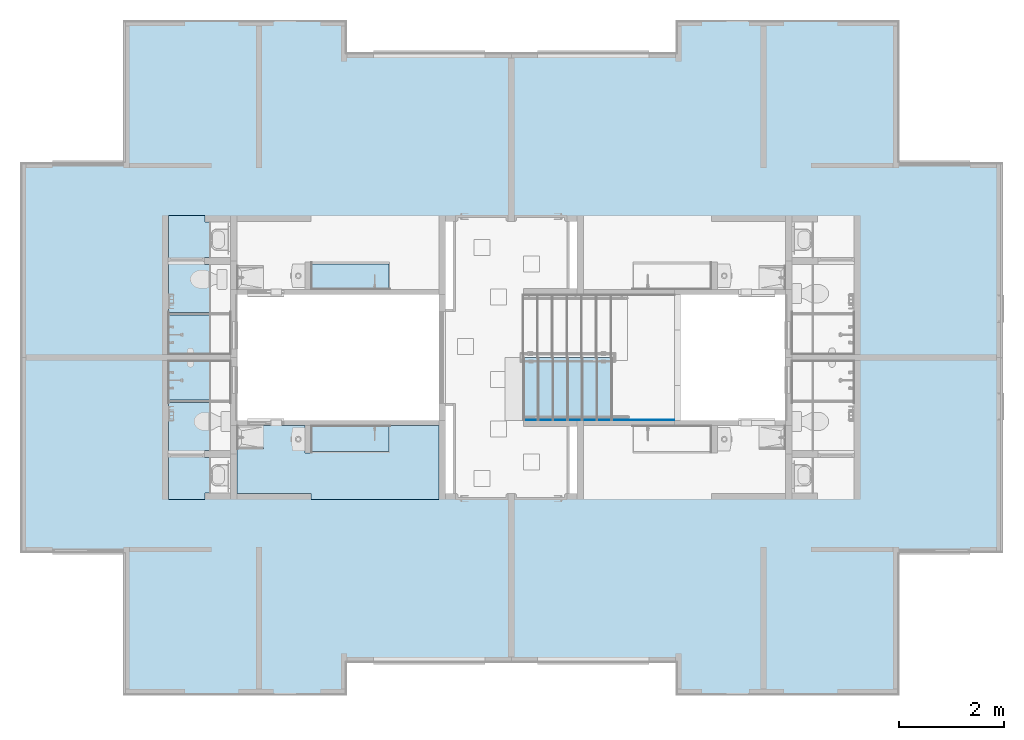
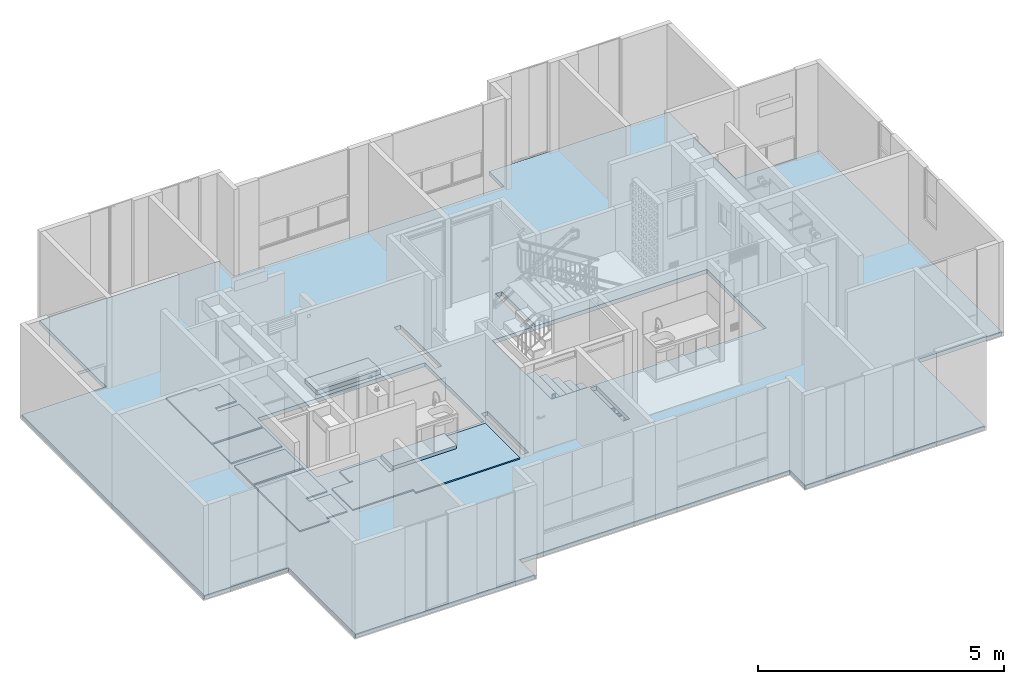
# One storey, part 1 of 48: 13 slabs.
"""IFC4 building model written with IfcOpenShell, lengths in metres."""

from ifc_helpers import new_model, entity, si_unit, converted_unit, derived_unit, direction, frame, origin, place, context, subcontext, project, spatial, indexed_curve, outline, extrude, material, constituent, constituent_set, type_object, element, save


model = new_model("IFC4")

# Units and contexts
model_context = context("Model", 3, precision=1e-05, world=origin(), true_north=direction((6.123031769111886e-17, 1.0)))
body_context = subcontext(model_context, "Body", "Model", "MODEL_VIEW")
ifc_project = project(units=[si_unit("LENGTHUNIT", "METRE"), si_unit("AREAUNIT", "SQUARE_METRE"), si_unit("VOLUMEUNIT", "CUBIC_METRE"), converted_unit("PLANEANGLEUNIT", "DEGREE", entity("IfcRatioMeasure", 0.017453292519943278), si_unit("PLANEANGLEUNIT", "RADIAN"), dimensions=[0, 0, 0, 0, 0, 0, 0]), si_unit("MASSUNIT", "GRAM", prefix="KILO"), derived_unit("MASSDENSITYUNIT", [(si_unit("MASSUNIT", "GRAM", prefix="KILO"), 1), (si_unit("LENGTHUNIT", "METRE"), -3)]), derived_unit("IONCONCENTRATIONUNIT", [(si_unit("MASSUNIT", "GRAM", prefix="KILO"), 1), (si_unit("LENGTHUNIT", "METRE"), -3)]), derived_unit("MOMENTOFINERTIAUNIT", [(si_unit("LENGTHUNIT", "METRE"), 4)]), si_unit("TIMEUNIT", "SECOND"), si_unit("FREQUENCYUNIT", "HERTZ"), si_unit("THERMODYNAMICTEMPERATUREUNIT", "DEGREE_CELSIUS"), derived_unit("THERMALTRANSMITTANCEUNIT", [(si_unit("MASSUNIT", "GRAM", prefix="KILO"), 1), (si_unit("THERMODYNAMICTEMPERATUREUNIT", "KELVIN"), -1), (si_unit("TIMEUNIT", "SECOND"), -3)]), derived_unit("THERMALCONDUCTANCEUNIT", [(si_unit("MASSUNIT", "GRAM", prefix="KILO"), 1), (si_unit("THERMODYNAMICTEMPERATUREUNIT", "KELVIN"), -1), (si_unit("TIMEUNIT", "SECOND"), -3), (si_unit("LENGTHUNIT", "METRE"), 1)]), derived_unit("VOLUMETRICFLOWRATEUNIT", [(si_unit("LENGTHUNIT", "METRE"), 3), (si_unit("TIMEUNIT", "SECOND"), -1)]), derived_unit("MASSFLOWRATEUNIT", [(si_unit("MASSUNIT", "GRAM", prefix="KILO"), 1), (si_unit("TIMEUNIT", "SECOND"), -1)]), derived_unit("ROTATIONALFREQUENCYUNIT", [(si_unit("TIMEUNIT", "SECOND"), -1)]), si_unit("ELECTRICCURRENTUNIT", "AMPERE"), si_unit("ELECTRICVOLTAGEUNIT", "VOLT"), si_unit("POWERUNIT", "WATT"), si_unit("FORCEUNIT", "NEWTON", prefix="KILO"), si_unit("ILLUMINANCEUNIT", "LUX"), si_unit("LUMINOUSFLUXUNIT", "LUMEN"), si_unit("LUMINOUSINTENSITYUNIT", "CANDELA"), derived_unit("USERDEFINED", [(si_unit("MASSUNIT", "GRAM", prefix="KILO"), -1), (si_unit("LENGTHUNIT", "METRE"), -2), (si_unit("TIMEUNIT", "SECOND"), 3), (si_unit("LUMINOUSFLUXUNIT", "LUMEN"), 1)]), derived_unit("USERDEFINED", [(si_unit("MASSUNIT", "GRAM", prefix="KILO"), 1), (si_unit("TIMEUNIT", "SECOND"), -3), (si_unit("LENGTHUNIT", "METRE"), 3), (si_unit("ELECTRICCURRENTUNIT", "AMPERE"), -2)]), derived_unit("SOUNDPOWERUNIT", [(si_unit("MASSUNIT", "GRAM", prefix="KILO"), 1), (si_unit("TIMEUNIT", "SECOND"), -3), (si_unit("LENGTHUNIT", "METRE"), 2)]), derived_unit("SOUNDPRESSUREUNIT", [(si_unit("MASSUNIT", "GRAM", prefix="KILO"), 1), (si_unit("LENGTHUNIT", "METRE"), -1), (si_unit("TIMEUNIT", "SECOND"), -2)]), derived_unit("LINEARVELOCITYUNIT", [(si_unit("LENGTHUNIT", "METRE"), 1), (si_unit("TIMEUNIT", "SECOND"), -1)]), si_unit("PRESSUREUNIT", "PASCAL"), derived_unit("USERDEFINED", [(si_unit("MASSUNIT", "GRAM", prefix="KILO"), 1), (si_unit("LENGTHUNIT", "METRE"), -2), (si_unit("TIMEUNIT", "SECOND"), -2)]), derived_unit("LINEARFORCEUNIT", [(si_unit("MASSUNIT", "GRAM", prefix="KILO"), 1), (si_unit("TIMEUNIT", "SECOND"), -2)]), derived_unit("PLANARFORCEUNIT", [(si_unit("MASSUNIT", "GRAM", prefix="KILO"), 1), (si_unit("LENGTHUNIT", "METRE"), -1), (si_unit("TIMEUNIT", "SECOND"), -2)]), derived_unit("SPECIFICHEATCAPACITYUNIT", [(si_unit("THERMODYNAMICTEMPERATUREUNIT", "KELVIN"), -1), (si_unit("LENGTHUNIT", "METRE"), 2), (si_unit("TIMEUNIT", "SECOND"), -2)]), derived_unit("HEATINGVALUEUNIT", [(si_unit("LENGTHUNIT", "METRE"), 2), (si_unit("TIMEUNIT", "SECOND"), -2)]), derived_unit("VAPORPERMEABILITYUNIT", [(si_unit("LENGTHUNIT", "METRE"), -1), (si_unit("TIMEUNIT", "SECOND"), 1)]), derived_unit("DYNAMICVISCOSITYUNIT", [(si_unit("MASSUNIT", "GRAM", prefix="KILO"), 1), (si_unit("TIMEUNIT", "SECOND"), -1), (si_unit("LENGTHUNIT", "METRE"), -1)]), derived_unit("THERMALEXPANSIONCOEFFICIENTUNIT", [(si_unit("THERMODYNAMICTEMPERATUREUNIT", "KELVIN"), -1)]), derived_unit("MODULUSOFELASTICITYUNIT", [(si_unit("MASSUNIT", "GRAM", prefix="KILO"), 1), (si_unit("LENGTHUNIT", "METRE"), -1), (si_unit("TIMEUNIT", "SECOND"), -2)]), derived_unit("ISOTHERMALMOISTURECAPACITYUNIT", [(si_unit("LENGTHUNIT", "METRE"), 3), (si_unit("MASSUNIT", "GRAM", prefix="KILO"), -1)]), derived_unit("MOISTUREDIFFUSIVITYUNIT", [(si_unit("TIMEUNIT", "SECOND"), -1), (si_unit("LENGTHUNIT", "METRE"), 2)])], contexts=[model_context])

# Site, building, storey
site_placement = place(None, origin())
site = spatial("IfcSite", under=ifc_project, at=site_placement, Name="Default", CompositionType="ELEMENT")
building_placement = place(site_placement, origin())
building = spatial("IfcBuilding", under=site, at=building_placement, CompositionType="ELEMENT")
storey_placement = place(building_placement, frame((0.0, 0.0, 4.700000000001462)))
storey = spatial("IfcBuildingStorey", under=building, at=storey_placement, Name="Nivel 3", CompositionType="ELEMENT", Elevation=4.700000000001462)

# Slabs
ifc_material_1 = material(Name="Ceramica 0.45m x 0.45m gris", Category="Materials")
ifc_constituent_1 = constituent(ifc_material_1, Name="Ceramica 0.45m x 0.45m gris", Category="Materials")
ifc_material_2 = material(Name="Mortero de pega", Category="Materials")
ifc_constituent_2 = constituent(ifc_material_2, Name="Mortero de pega", Category="Materials")
ifc_constituent_set_1 = constituent_set(constituents=[ifc_constituent_1, ifc_constituent_2], Name="Floor:C2030.20 - 0.45 x 0.45 - Enchape cerámico - Mortero de Pega + Cerámica gris")
slab_type_1 = type_object("IfcSlabType", Name="Floor:C2030.20 - 0.45 x 0.45 - Enchape cerámico - Mortero de Pega + Cerámica gris", PredefinedType="FLOOR", material=ifc_constituent_set_1)
slab_1_placement = place(storey_placement, origin())
element("IfcSlab", 1, at=slab_1_placement, inside=storey, type_object=slab_type_1, material=ifc_constituent_set_1, Name="Floor:C2030.20 - 0.45 x 0.45 - Enchape cerámico - Mortero de Pega + Cerámica gris", ObjectType="Floor:C2030.20 - 0.45 x 0.45 - Enchape cerámico - Mortero de Pega + Cerámica gris", PredefinedType="FLOOR", context=body_context, shape_type="SweptSolid", body=[
    extrude(outline(indexed_curve([(-0.592499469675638, -0.3749999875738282), (0.5924994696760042, -0.3749999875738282), (0.5924994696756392, 0.3749999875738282), (-0.5924994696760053, 0.3749999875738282), (-0.592499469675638, -0.3749999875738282)], self_intersect=False)), frame((3.3700005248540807, -5.990000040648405, 0.019999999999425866), z_axis=(0.0, 0.0, 1.0), x_axis=(-1.0, 0.0, 0.0)), (0.0, 0.0, 1.0), 0.009999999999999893),
    extrude(outline(indexed_curve([(-0.1950000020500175, -0.06099936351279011), (-0.19500000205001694, 0.4339995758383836), (-1.109999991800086, 0.43399957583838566), (-1.109999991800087, -0.7509993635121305), (0.7449999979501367, -0.7509993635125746), (0.7449999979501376, -0.05600042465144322), (0.6199999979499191, -0.05600042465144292), (0.619999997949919, 0.4339995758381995), (-0.060000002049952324, 0.4339995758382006), (-0.060000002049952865, -0.06099936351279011), (-0.1950000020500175, -0.06099936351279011)], self_intersect=False)), frame((3.5285004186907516, -4.455000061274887, 0.019999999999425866), z_axis=(0.0, 0.0, -1.0), x_axis=(0.0, 1.0, 0.0)), (0.0, 0.0, -1.0), 0.009999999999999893),
    extrude(outline(indexed_curve([(-0.7509993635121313, -1.1099999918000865), (0.4339995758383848, -1.1099999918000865), (0.4339995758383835, -0.19500000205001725), (-0.06099936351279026, -0.1950000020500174), (-0.06099936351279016, -0.06000000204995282), (0.4339995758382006, -0.06000000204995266), (0.4339995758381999, 0.6199999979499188), (-0.05600042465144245, 0.6199999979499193), (-0.05600042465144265, 0.7449999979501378), (-0.750999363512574, 0.7449999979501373), (-0.7509993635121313, -1.1099999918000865)], self_intersect=False)), frame((3.5285004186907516, -4.455000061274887, 0.0)), (0.0, 0.0, 1.0), 0.020000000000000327),
    extrude(outline(indexed_curve([(-0.37499998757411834, -0.5924994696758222), (0.37499998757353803, -0.5924994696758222), (0.37499998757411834, 0.59249946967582), (-0.37499998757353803, 0.5924994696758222), (-0.37499998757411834, -0.5924994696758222)], self_intersect=False)), frame((3.37000052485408, -5.990000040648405, 0.0), z_axis=(0.0, 0.0, 1.0), x_axis=(0.0, 1.0, 0.0)), (0.0, 0.0, 1.0), 0.020000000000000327),
])
slab_2_placement = place(storey_placement, origin())
element("IfcSlab", 2, at=slab_2_placement, inside=storey, type_object=slab_type_1, material=ifc_constituent_set_1, Name="Floor:C2030.20 - 0.45 x 0.45 - Enchape cerámico - Mortero de Pega + Cerámica gris", ObjectType="Floor:C2030.20 - 0.45 x 0.45 - Enchape cerámico - Mortero de Pega + Cerámica gris", PredefinedType="FLOOR", context=body_context, shape_type="SweptSolid", body=[
    extrude(outline(indexed_curve([(-0.5924994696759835, -0.3749999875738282), (0.5924994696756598, -0.3749999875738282), (0.5924994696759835, 0.3749999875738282), (-0.5924994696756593, 0.3749999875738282), (-0.5924994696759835, -0.3749999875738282)], self_intersect=False)), frame((3.3700005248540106, -6.860000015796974, 0.019999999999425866), z_axis=(0.0, 0.0, 1.0), x_axis=(-1.0, 0.0, 0.0)), (0.0, 0.0, 1.0), 0.009999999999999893),
    extrude(outline(indexed_curve([(0.19500000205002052, -0.4339995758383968), (1.1099999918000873, -0.4339995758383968), (1.109999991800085, 0.7509993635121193), (-0.7449999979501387, 0.750999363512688), (-0.7449999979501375, 0.05600042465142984), (-0.619999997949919, 0.05600042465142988), (-0.6199999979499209, -0.43399957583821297), (0.0600000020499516, -0.43399957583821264), (0.060000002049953, 0.060999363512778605), (0.19500000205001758, 0.06099936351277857), (0.19500000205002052, -0.4339995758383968)], self_intersect=False)), frame((3.528500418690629, -8.394999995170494, 0.019999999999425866), z_axis=(0.0, 0.0, 1.0), x_axis=(0.0, 1.0, 0.0)), (0.0, 0.0, 1.0), 0.009999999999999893),
    extrude(outline(indexed_curve([(-1.1099999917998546, -0.7509993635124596), (0.744999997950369, -0.7509993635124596), (0.7449999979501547, -0.05600042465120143), (0.6199999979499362, -0.056000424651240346), (0.6199999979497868, 0.4339995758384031), (-0.060000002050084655, 0.4339995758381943), (-0.06000000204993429, -0.06099936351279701), (-0.19500000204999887, -0.060999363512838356), (-0.19500000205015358, 0.43399957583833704), (-1.1099999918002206, 0.43399957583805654), (-1.1099999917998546, -0.7509993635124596)], self_intersect=False)), frame((3.528500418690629, -8.394999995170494, 0.0), z_axis=(0.0, 0.0, 1.0), x_axis=(0.0, -1.0, 0.0)), (0.0, 0.0, 1.0), 0.020000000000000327),
    extrude(outline(indexed_curve([(-0.5924994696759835, -0.3749999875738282), (0.5924994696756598, -0.3749999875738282), (0.5924994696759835, 0.3749999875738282), (-0.5924994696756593, 0.3749999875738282), (-0.5924994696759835, -0.3749999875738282)], self_intersect=False)), frame((3.3700005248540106, -6.860000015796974, 0.0), z_axis=(0.0, 0.0, 1.0), x_axis=(-1.0, 0.0, 0.0)), (0.0, 0.0, 1.0), 0.020000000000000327),
])
slab_3_placement = place(storey_placement, origin())
element("IfcSlab", 3, at=slab_3_placement, inside=storey, type_object=slab_type_1, material=ifc_constituent_set_1, Name="Floor:C2030.20 - 0.45 x 0.45 - Enchape cerámico - Mortero de Pega + Cerámica gris", ObjectType="Floor:C2030.20 - 0.45 x 0.45 - Enchape cerámico - Mortero de Pega + Cerámica gris", PredefinedType="FLOOR", context=body_context, shape_type="SweptSolid", body=[
    extrude(outline(indexed_curve([(-0.06375012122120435, -0.8409999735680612), (2.381249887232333, -0.8409999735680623), (2.3812498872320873, 0.5734999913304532), (1.4212498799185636, 0.5734999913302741), (1.4212498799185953, 0.083999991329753), (-0.06375012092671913, 0.08399999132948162), (-0.06375012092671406, 0.05399999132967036), (-0.17875012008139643, 0.053999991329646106), (-0.17875012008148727, 0.573499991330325), (-1.038749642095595, 0.5734999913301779), (-1.038749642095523, 0.1579999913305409), (-0.978749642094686, 0.15799999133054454), (-0.9787496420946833, 0.12399999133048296), (-1.4787501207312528, 0.12399999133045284), (-1.478750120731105, -0.7259999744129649), (-0.06375012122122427, -0.725999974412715), (-0.06375012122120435, -0.8409999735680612)], self_intersect=False)), frame((5.566250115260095, -8.299000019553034, 0.019999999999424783)), (0.0, 0.0, 1.0), 0.009999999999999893),
    extrude(outline(indexed_curve([(-0.06375012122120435, -0.8409999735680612), (2.381249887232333, -0.8409999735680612), (2.3812498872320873, 0.5734999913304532), (1.4212498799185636, 0.5734999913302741), (1.4212498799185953, 0.083999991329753), (-0.06375012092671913, 0.08399999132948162), (-0.06375012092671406, 0.05399999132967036), (-0.17875012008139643, 0.053999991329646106), (-0.17875012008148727, 0.573499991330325), (-1.038749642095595, 0.5734999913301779), (-1.038749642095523, 0.1579999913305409), (-0.978749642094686, 0.15799999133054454), (-0.9787496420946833, 0.12399999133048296), (-1.4787501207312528, 0.12399999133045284), (-1.478750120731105, -0.7259999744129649), (-0.06375012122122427, -0.725999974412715), (-0.06375012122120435, -0.8409999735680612)], self_intersect=False)), frame((5.566250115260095, -8.299000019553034, 0.0)), (0.0, 0.0, 1.0), 0.020000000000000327),
])
ifc_material_3 = material(Name="Concreto (Aire)", Category="Materials")
slab_type_2 = type_object("IfcSlabType", Name="Floor:B1010 - 0.10m - Placa Entrepiso - Concreto", PredefinedType="FLOOR", material=ifc_material_3)
slab_4_placement = place(storey_placement, origin())
element("IfcSlab", 4, at=slab_4_placement, inside=storey, type_object=slab_type_2, material=ifc_material_3, Name="Floor:B1010 - 0.10m - Placa Entrepiso - Concreto", ObjectType="Floor:B1010 - 0.10m - Placa Entrepiso - Concreto", PredefinedType="FLOOR", context=body_context, shape_type="SweptSolid", body=[
    extrude(outline(indexed_curve([(-7.375000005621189, -6.415000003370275), (-3.170000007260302, -6.415000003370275), (-3.170000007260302, -5.8000000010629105), (3.1700000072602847, -5.8000000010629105), (3.1700000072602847, -6.415000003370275), (7.3750000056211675, -6.415000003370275), (7.3750000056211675, -3.6999999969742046), (9.350000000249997, -3.699999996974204), (9.350000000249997, 3.6999999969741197), (7.375000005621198, 3.6999999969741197), (7.375000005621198, 6.415000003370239), (3.1700000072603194, 6.415000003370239), (3.1700000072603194, 5.800000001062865), (-3.170000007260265, 5.800000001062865), (-3.170000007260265, 6.415000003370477), (-7.375000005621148, 6.415000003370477), (-7.375000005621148, 3.6999999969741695), (-9.350000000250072, 3.6999999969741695), (-9.350000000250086, -3.6999999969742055), (-7.375000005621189, -3.6999999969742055), (-7.375000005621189, -6.415000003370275)], self_intersect=False), holes=[indexed_curve([(-5.2650000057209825, -1.2000000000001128), (-5.2650000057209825, 1.199999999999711), (-3.235000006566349, 1.199999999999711), (-0.23000000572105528, 1.1999999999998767), (-0.23000000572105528, -1.2000000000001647), (-3.2948232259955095, -1.2000000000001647), (-5.2650000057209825, -1.2000000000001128)], self_intersect=False), indexed_curve([(5.265000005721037, -1.2000000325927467), (1.3449999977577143, -1.2000000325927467), (1.3449999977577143, 1.2000000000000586), (5.265000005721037, 1.2000000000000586), (5.265000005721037, -1.2000000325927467)], self_intersect=False), indexed_curve([(-1.2599999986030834, -2.5999999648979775), (-1.2599999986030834, -1.250000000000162), (-1.1099999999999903, -1.250000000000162), (-1.1099999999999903, -2.5999999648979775), (-1.2599999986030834, -2.5999999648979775)], self_intersect=False), indexed_curve([(-1.2599999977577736, 1.2500000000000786), (-1.2599999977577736, 2.599999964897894), (-1.1099999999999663, 2.599999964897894), (-1.1099999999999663, 1.2500000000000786), (-1.2599999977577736, 1.2500000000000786)], self_intersect=False), indexed_curve([(1.2599999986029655, 0.9299999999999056), (1.1100000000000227, 0.9299999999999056), (1.1100000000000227, 2.5999999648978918), (1.2599999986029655, 2.5999999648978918), (1.2599999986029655, 0.9299999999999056)], self_intersect=False), indexed_curve([(1.110000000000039, -2.5999999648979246), (1.110000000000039, -0.9299999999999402), (1.2599999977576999, -0.9299999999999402), (1.2599999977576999, -2.5999999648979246), (1.110000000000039, -2.5999999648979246)], self_intersect=False)]), frame((9.322500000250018, -6.425000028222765, -0.1), z_axis=(0.0, 0.0, 1.0), x_axis=(-1.0, 0.0, 0.0)), (0.0, 0.0, 1.0), 0.1),
])
ifc_material_4 = material(Name="escalgres", Category="Materials")
ifc_constituent_3 = constituent(ifc_material_4, Name="escalgres", Category="Materials")
ifc_constituent_4 = constituent(ifc_material_2, Name="Mortero de pega", Category="Materials")
ifc_constituent_set_2 = constituent_set(constituents=[ifc_constituent_3, ifc_constituent_4], Name="Floor:C2030.20 -30x30- Escalgres - Gres")
slab_type_3 = type_object("IfcSlabType", Name="Floor:C2030.20 -30x30- Escalgres - Gres", PredefinedType="FLOOR", material=ifc_constituent_set_2)
slab_5_placement = place(storey_placement, origin())
element("IfcSlab", 5, at=slab_5_placement, inside=storey, type_object=slab_type_3, material=ifc_constituent_set_2, Name="Floor:C2030.20 -30x30- Escalgres - Gres", ObjectType="Floor:C2030.20 -30x30- Escalgres - Gres", PredefinedType="FLOOR", context=body_context, shape_type="SweptSolid", body=[
    extrude(outline(indexed_curve([(-0.1475000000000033, -0.6000000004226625), (0.14750000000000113, -0.6000000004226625), (0.14750000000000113, 0.6000000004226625), (-0.1475000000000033, 0.6000000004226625), (-0.1475000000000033, -0.6000000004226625)], self_intersect=False)), frame((11.10000000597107, -7.025000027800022, -0.9871428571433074)), (0.0, 0.0, 1.0), 0.009999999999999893),
    extrude(outline(indexed_curve([(-0.6000000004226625, -0.1475000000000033), (0.6000000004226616, -0.1475000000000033), (0.6000000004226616, 0.14750000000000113), (-0.6000000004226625, 0.14750000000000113), (-0.6000000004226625, -0.1475000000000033)], self_intersect=False)), frame((11.10000000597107, -7.025000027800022, -1.0071428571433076), z_axis=(0.0, 0.0, 1.0), x_axis=(0.0, -1.0, 0.0)), (0.0, 0.0, 1.0), 0.020000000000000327),
])
slab_6_placement = place(storey_placement, origin())
element("IfcSlab", 6, at=slab_6_placement, inside=storey, type_object=slab_type_3, material=ifc_constituent_set_2, Name="Floor:C2030.20 -30x30- Escalgres - Gres", ObjectType="Floor:C2030.20 -30x30- Escalgres - Gres", PredefinedType="FLOOR", context=body_context, shape_type="SweptSolid", body=[
    extrude(outline(indexed_curve([(-0.1475000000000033, -0.6000000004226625), (0.14750000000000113, -0.6000000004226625), (0.14750000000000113, 0.6000000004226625), (-0.1475000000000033, 0.6000000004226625), (-0.1475000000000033, -0.6000000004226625)], self_intersect=False)), frame((10.820000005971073, -7.025000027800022, -0.8192857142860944)), (0.0, 0.0, 1.0), 0.009999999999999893),
    extrude(outline(indexed_curve([(-0.6000000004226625, -0.1475000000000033), (0.6000000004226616, -0.1475000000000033), (0.6000000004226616, 0.14750000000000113), (-0.6000000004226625, 0.14750000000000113), (-0.6000000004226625, -0.1475000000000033)], self_intersect=False)), frame((10.820000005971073, -7.025000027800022, -0.8392857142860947), z_axis=(0.0, 0.0, 1.0), x_axis=(0.0, -1.0, 0.0)), (0.0, 0.0, 1.0), 0.020000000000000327),
])
slab_7_placement = place(storey_placement, origin())
element("IfcSlab", 7, at=slab_7_placement, inside=storey, type_object=slab_type_3, material=ifc_constituent_set_2, Name="Floor:C2030.20 -30x30- Escalgres - Gres", ObjectType="Floor:C2030.20 -30x30- Escalgres - Gres", PredefinedType="FLOOR", context=body_context, shape_type="SweptSolid", body=[
    extrude(outline(indexed_curve([(-0.1475000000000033, -0.6000000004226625), (0.14750000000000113, -0.6000000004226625), (0.14750000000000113, 0.6000000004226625), (-0.1475000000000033, 0.6000000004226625), (-0.1475000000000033, -0.6000000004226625)], self_intersect=False)), frame((10.540000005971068, -7.025000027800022, -0.6514285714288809)), (0.0, 0.0, 1.0), 0.009999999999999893),
    extrude(outline(indexed_curve([(-0.6000000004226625, -0.1475000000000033), (0.6000000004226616, -0.1475000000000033), (0.6000000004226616, 0.14750000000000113), (-0.6000000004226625, 0.14750000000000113), (-0.6000000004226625, -0.1475000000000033)], self_intersect=False)), frame((10.540000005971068, -7.025000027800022, -0.6714285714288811), z_axis=(0.0, 0.0, 1.0), x_axis=(0.0, -1.0, 0.0)), (0.0, 0.0, 1.0), 0.020000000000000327),
])
slab_8_placement = place(storey_placement, origin())
element("IfcSlab", 8, at=slab_8_placement, inside=storey, type_object=slab_type_3, material=ifc_constituent_set_2, Name="Floor:C2030.20 -30x30- Escalgres - Gres", ObjectType="Floor:C2030.20 -30x30- Escalgres - Gres", PredefinedType="FLOOR", context=body_context, shape_type="SweptSolid", body=[
    extrude(outline(indexed_curve([(-0.1475000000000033, -0.6000000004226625), (0.14750000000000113, -0.6000000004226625), (0.14750000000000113, 0.6000000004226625), (-0.1475000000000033, 0.6000000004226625), (-0.1475000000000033, -0.6000000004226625)], self_intersect=False)), frame((10.26000000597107, -7.025000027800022, -0.4835714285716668)), (0.0, 0.0, 1.0), 0.009999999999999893),
    extrude(outline(indexed_curve([(-0.6000000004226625, -0.1475000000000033), (0.6000000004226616, -0.1475000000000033), (0.6000000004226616, 0.14750000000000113), (-0.6000000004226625, 0.14750000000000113), (-0.6000000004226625, -0.1475000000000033)], self_intersect=False)), frame((10.26000000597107, -7.025000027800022, -0.5035714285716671), z_axis=(0.0, 0.0, 1.0), x_axis=(0.0, -1.0, 0.0)), (0.0, 0.0, 1.0), 0.020000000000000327),
])
slab_9_placement = place(storey_placement, origin())
element("IfcSlab", 9, at=slab_9_placement, inside=storey, type_object=slab_type_3, material=ifc_constituent_set_2, Name="Floor:C2030.20 -30x30- Escalgres - Gres", ObjectType="Floor:C2030.20 -30x30- Escalgres - Gres", PredefinedType="FLOOR", context=body_context, shape_type="SweptSolid", body=[
    extrude(outline(indexed_curve([(-0.1475000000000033, -0.6000000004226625), (0.14750000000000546, -0.6000000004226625), (0.14750000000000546, 0.6000000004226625), (-0.1475000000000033, 0.6000000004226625), (-0.1475000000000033, -0.6000000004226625)], self_intersect=False)), frame((9.98000000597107, -7.025000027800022, -0.31571428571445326)), (0.0, 0.0, 1.0), 0.009999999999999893),
    extrude(outline(indexed_curve([(-0.6000000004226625, -0.1475000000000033), (0.6000000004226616, -0.1475000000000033), (0.6000000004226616, 0.14750000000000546), (-0.6000000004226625, 0.14750000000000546), (-0.6000000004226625, -0.1475000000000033)], self_intersect=False)), frame((9.98000000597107, -7.025000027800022, -0.3357142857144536), z_axis=(0.0, 0.0, 1.0), x_axis=(0.0, -1.0, 0.0)), (0.0, 0.0, 1.0), 0.020000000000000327),
])
slab_10_placement = place(storey_placement, origin())
element("IfcSlab", 10, at=slab_10_placement, inside=storey, type_object=slab_type_3, material=ifc_constituent_set_2, Name="Floor:C2030.20 -30x30- Escalgres - Gres", ObjectType="Floor:C2030.20 -30x30- Escalgres - Gres", PredefinedType="FLOOR", context=body_context, shape_type="SweptSolid", body=[
    extrude(outline(indexed_curve([(-0.1475000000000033, -0.6000000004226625), (0.1475000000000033, -0.6000000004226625), (0.1475000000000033, 0.6000000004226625), (-0.1475000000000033, 0.6000000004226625), (-0.1475000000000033, -0.6000000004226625)], self_intersect=False)), frame((9.70000000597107, -7.025000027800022, -0.14785714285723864)), (0.0, 0.0, 1.0), 0.009999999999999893),
    extrude(outline(indexed_curve([(-0.6000000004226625, -0.1475000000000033), (0.6000000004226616, -0.1475000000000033), (0.6000000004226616, 0.1475000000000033), (-0.6000000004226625, 0.1475000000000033), (-0.6000000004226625, -0.1475000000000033)], self_intersect=False)), frame((9.70000000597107, -7.025000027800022, -0.16785714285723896), z_axis=(0.0, 0.0, 1.0), x_axis=(0.0, -1.0, 0.0)), (0.0, 0.0, 1.0), 0.020000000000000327),
])
slab_type_4 = type_object("IfcSlabType", Name="Floor:B1010 - 0.10m - Poyo - Concreto", PredefinedType="FLOOR", material=ifc_material_3)
slab_11_placement = place(storey_placement, origin())
element("IfcSlab", 11, at=slab_11_placement, inside=storey, type_object=slab_type_4, material=ifc_material_3, Name="Floor:B1010 - 0.10m - Poyo - Concreto", ObjectType="Floor:B1010 - 0.10m - Poyo - Concreto", PredefinedType="FLOOR", context=body_context, shape_type="SweptSolid", body=[
    extrude(outline(indexed_curve([(-0.24475000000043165, -0.7425000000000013), (0.2447500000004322, -0.7425000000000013), (0.2447500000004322, 0.7425000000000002), (-0.24475000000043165, 0.7425000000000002), (-0.24475000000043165, -0.7425000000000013)], self_intersect=False)), frame((6.2449999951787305, -4.879750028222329, 0.10999999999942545), z_axis=(0.0, 0.0, -1.0), x_axis=(0.0, 1.0, 0.0)), (0.0, 0.0, 1.0), 0.1099999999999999),
])
slab_12_placement = place(storey_placement, origin())
element("IfcSlab", 12, at=slab_12_placement, inside=storey, type_object=slab_type_4, material=ifc_material_3, Name="Floor:B1010 - 0.10m - Poyo - Concreto", ObjectType="Floor:B1010 - 0.10m - Poyo - Concreto", PredefinedType="FLOOR", context=body_context, shape_type="SweptSolid", body=[
    extrude(outline(indexed_curve([(-0.2447500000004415, -0.7425000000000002), (0.2447500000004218, -0.7425000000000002), (0.2447500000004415, 0.7425000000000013), (-0.2447500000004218, 0.7425000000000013), (-0.2447500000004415, -0.7425000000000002)], self_intersect=False)), frame((6.24499999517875, -7.970250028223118, 0.10999999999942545), z_axis=(0.0, 0.0, -1.0), x_axis=(0.0, 1.0, 0.0)), (0.0, 0.0, 1.0), 0.1099999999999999),
])
ifc_material_5 = material(Name="PISO GRES SAHARA 30X30 guardaescoba sin hatch", Category="Materials")
slab_type_5 = type_object("IfcSlabType", Name="Floors 2:Floors 2", PredefinedType="FLOOR", material=ifc_material_5)
slab_13_placement = place(storey_placement, origin())
element("IfcSlab", 13, at=slab_13_placement, inside=storey, type_object=slab_type_5, Name="Floors 2:Floors 2", ObjectType="Floors 2:Floors 2", PredefinedType="FLOOR", context=body_context, shape_type="SweptSolid", body=[
    extrude(outline(indexed_curve([(-1.8526666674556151, -0.5909921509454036), (-0.6676666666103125, -0.5909921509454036), (-0.6676666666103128, -0.4231350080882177), (-0.3876666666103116, -0.4231350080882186), (-0.38766666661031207, -0.2552778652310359), (-0.10766666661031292, -0.2552778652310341), (-0.10766666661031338, -0.08742072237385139), (0.17233333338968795, -0.0874207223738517), (0.17233333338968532, 0.08043642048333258), (0.4523333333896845, 0.08043642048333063), (0.452333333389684, 0.24829356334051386), (0.732333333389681, 0.24829356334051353), (0.7323333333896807, 0.4161507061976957), (1.012333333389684, 0.4161507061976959), (1.0123333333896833, 0.6638901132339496), (0.9323333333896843, 0.6638901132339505), (0.9323333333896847, 0.4961507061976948), (0.6523333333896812, 0.496150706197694), (0.6523333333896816, 0.32829356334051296), (0.37233333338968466, 0.32829356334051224), (0.372333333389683, 0.16043642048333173), (0.09233333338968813, 0.16043642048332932), (0.09233333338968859, -0.0074207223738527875), (-0.18766666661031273, -0.007420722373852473), (-0.18766666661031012, -0.17527786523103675), (-0.4676666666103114, -0.175277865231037), (-0.467666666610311, -0.3431350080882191), (-0.7476666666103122, -0.34313500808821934), (-0.7476666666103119, -0.5109921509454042), (-1.8526666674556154, -0.5109921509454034), (-1.8526666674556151, -0.5909921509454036)], self_intersect=False)), frame((10.579727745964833, -7.625000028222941, -0.5540078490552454), z_axis=(0.0, 1.0, 0.0), x_axis=(-1.0, 0.0, 0.0)), (0.0, 0.0, 1.0), 0.009999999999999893),
])

save(model, "model.ifc")
